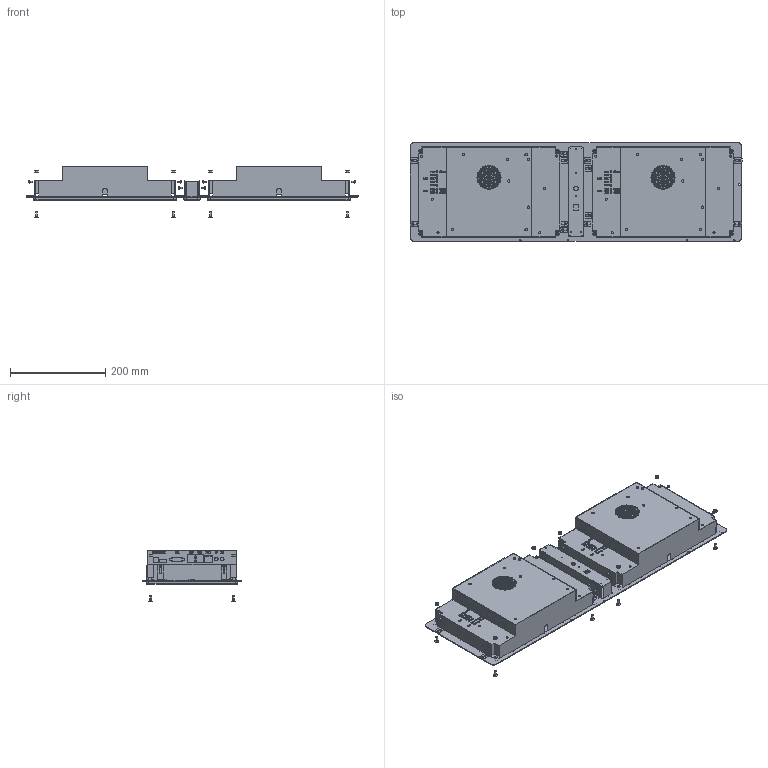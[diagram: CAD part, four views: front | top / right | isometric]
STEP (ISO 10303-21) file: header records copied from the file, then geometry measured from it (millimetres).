
FILE_DESCRIPTION((''),'2;1');
FILE_NAME('G1000___21_1','2016-05-24T',('WINWING'),(''),'CREO PARAMETRIC BY PTC INC, 2015290','CREO PARAMETRIC BY PTC INC, 2015290','');
FILE_SCHEMA(('CONFIG_CONTROL_DESIGN'));
Products named in the file (12): GMA1347ºó__1; 233; GMA1347軞傖-_1; GDU1040-01-01_8_1; 123; GDU1040-22_7_1; C172翋醱_1; GDU1040-ZJ_4_1; 12_3_1; GB6170-86_M4-C0047_1_1; M3X6_GB818-C0095_4_1; G1000___21_1
Assembly tree (48 placements, depth 3):
  G1000___21_1
    GMA1347軞傖-_1
      GMA1347ºó__1
      233
    GDU1040-22_7_1  x2
      GDU1040-01-01_8_1
      123
    C172翋醱_1
    GDU1040-ZJ_4_1  x12
    12_3_1  x8
    GB6170-86_M4-C0047_1_1  x8
    M3X6_GB818-C0095_4_1  x12
Bounding box: 698 x 207.5 x 106.8 mm (x, y, z)
Volume: 1101284 mm3; surface area: 805166.4 mm2
Topology: 47 solids, 59 shells, 7029 faces, 19575 edges, 12898 vertices
Faces by surface type: plane 5665, cylinder 992, cone 248, torus 52, bspline 48, sphere 24
Entity records: 104144 total; most frequent: CARTESIAN_POINT 18843, ORIENTED_EDGE 17954, DIRECTION 16251, EDGE_CURVE 8979, VECTOR 7887, LINE 7887, VERTEX_POINT 5966, AXIS2_PLACEMENT_3D 4182
